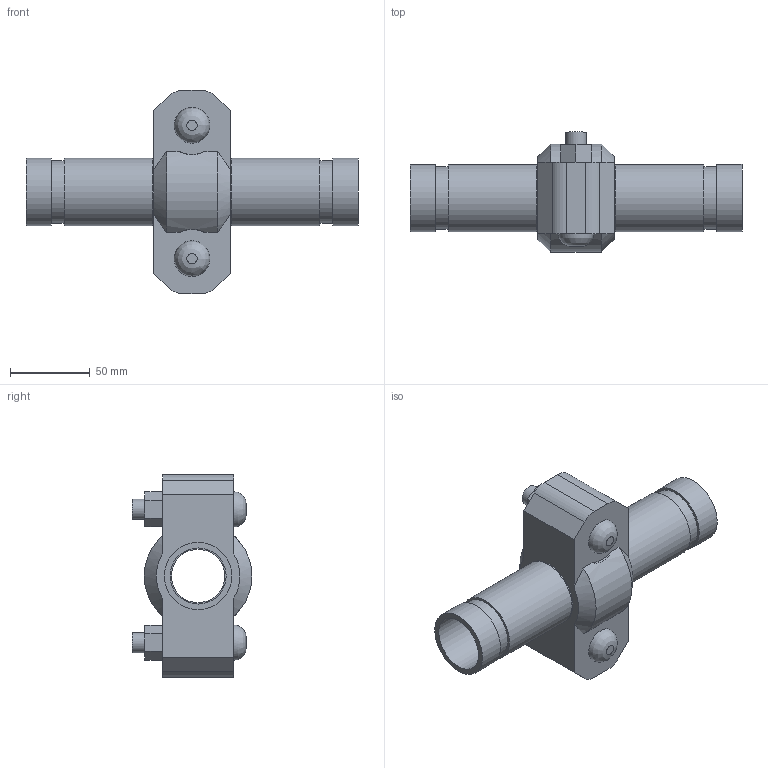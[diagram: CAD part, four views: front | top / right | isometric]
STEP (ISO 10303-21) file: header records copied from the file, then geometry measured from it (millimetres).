
FILE_DESCRIPTION(/* description */ ('VIC EXPANSION JOINT 1 COUPLING EXPANDED STYLE 155 (OGS)','CAx-IF Rec.Pracs.---Representation and Presentation of Product Manufacturing Information (PMI)---4.0---2014-10-13'),/* implementation_level */ '2;1');
FILE_NAME(/* name */ 'C:\Users\kkamble\AppData\Roaming\Autodesk\ApplicationPlugins\Victaulic.Temp\A694\Victaulic_IPS_Expansion Joint_Expanded_1 Coupling_Style 155 (OGS)_1.25 (32).stp',/* time_stamp */ '2021-06-26T23:47:11+02:00',/* author */ ('kkamble'),/* organization */ ('Victaulic'),/* preprocessor_version */ 'ST-DEVELOPER v17.2',/* originating_system */ 'Autodesk Inventor 2019',/* authorisation */ '');
FILE_SCHEMA (('AP242_MANAGED_MODEL_BASED_3D_ENGINEERING_MIM_LF { 1 0 10303 442 1 1 4 }'));
Length unit declared in the file: inch
Products named in the file (3): 155-01.25; Nipple-01.25; 077-01.25
Assembly tree (3 placements, depth 2):
  155-01.25
    Nipple-01.25  x2
    077-01.25
Bounding box: 207.52 x 74.93 x 127 mm (x, y, z)
Volume: 313496.4 mm3; surface area: 94987.7 mm2
Topology: 3 solids, 5 shells, 85 faces, 205 edges, 146 vertices
Faces by surface type: plane 48, cylinder 31, cone 4, bspline 2
Full cylindrical faces by diameter (mm): 12.7 x4, 14.605 x2, 33.274 x1, 35.052 x2, 38.989 x4, 42.164 x8
Entity records: 2469 total; most frequent: CARTESIAN_POINT 480, DIRECTION 389, ORIENTED_EDGE 350, EDGE_CURVE 175, AXIS2_PLACEMENT_3D 149, VERTEX_POINT 122, EDGE_LOOP 93, LINE 91
